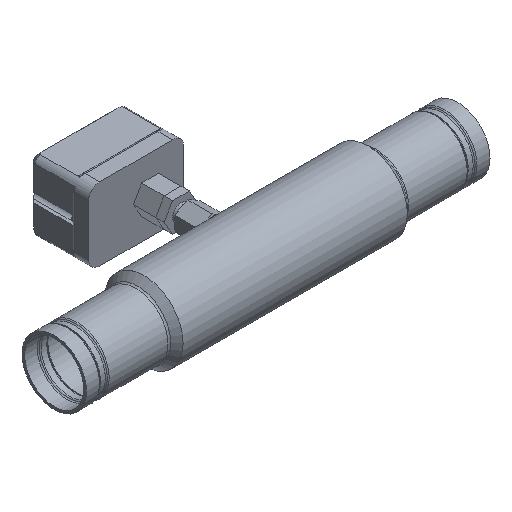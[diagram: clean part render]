
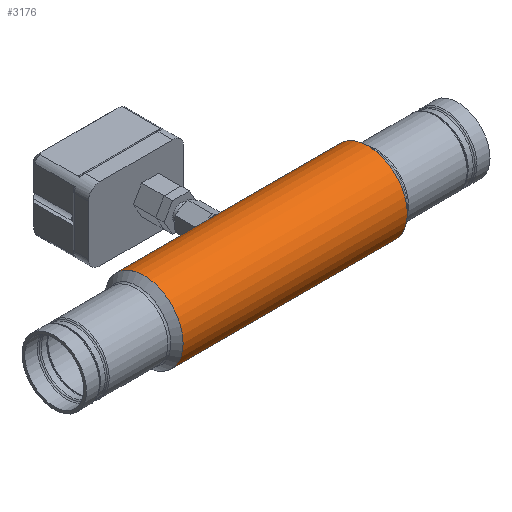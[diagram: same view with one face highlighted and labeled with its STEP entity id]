
A CAD part, isometric view. The second image highlights one B-rep face of the part: STEP entity #3176.
In plain terms, the highlighted cylindrical face has radius 44.45 mm (diameter 88.9 mm), a full revolution.
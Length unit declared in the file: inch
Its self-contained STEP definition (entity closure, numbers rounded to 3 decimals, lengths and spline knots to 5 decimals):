
#92=FACE_BOUND('',#468,.T.);
#179=CYLINDRICAL_SURFACE('',#3483,1.75);
#288=FACE_OUTER_BOUND('',#467,.T.);
#467=EDGE_LOOP('',(#2423,#2424,#2425,#2426,#2427,#2428));
#468=EDGE_LOOP('',(#2429,#2430));
#675=CIRCLE('',#3478,1.75);
#676=CIRCLE('',#3479,1.75);
#677=CIRCLE('',#3481,1.75);
#678=CIRCLE('',#3482,1.75);
#802=B_SPLINE_CURVE_WITH_KNOTS('',3,(#15099,#15100,#15101,#15102,#15103,
#15104,#15105,#15106,#15107,#15108,#15109,#15110,#15111,#15112,#15113,#15114,
#15115,#15116,#15117,#15118,#15119,#15120,#15121,#15122,#15123,#15124),
 .UNSPECIFIED.,.F.,.F.,(4,2,2,2,2,2,2,2,2,2,2,2,4),(0.,0.20913,
0.41826,0.62748,0.8367,1.04593,
1.25515,1.46428,1.67341,1.88254,2.09167,
2.30089,2.51011),.UNSPECIFIED.);
#803=B_SPLINE_CURVE_WITH_KNOTS('',3,(#15125,#15126,#15127,#15128,#15129,
#15130,#15131,#15132,#15133,#15134),.UNSPECIFIED.,.F.,.F.,(4,2,2,2,4),(2.51011,
2.71933,2.92855,3.13768,3.34681),
 .UNSPECIFIED.);
#869=LINE('',#15371,#1041);
#1041=VECTOR('',#4086,1.75);
#1259=VERTEX_POINT('',#15097);
#1260=VERTEX_POINT('',#15098);
#1325=VERTEX_POINT('',#15361);
#1326=VERTEX_POINT('',#15362);
#1327=VERTEX_POINT('',#15366);
#1328=VERTEX_POINT('',#15367);
#1620=EDGE_CURVE('',#1259,#1260,#802,.T.);
#1621=EDGE_CURVE('',#1260,#1259,#803,.T.);
#1718=EDGE_CURVE('',#1325,#1326,#675,.T.);
#1719=EDGE_CURVE('',#1326,#1325,#676,.T.);
#1720=EDGE_CURVE('',#1327,#1328,#677,.T.);
#1721=EDGE_CURVE('',#1328,#1327,#678,.T.);
#1722=EDGE_CURVE('',#1328,#1326,#869,.T.);
#2423=ORIENTED_EDGE('',*,*,#1720,.F.);
#2424=ORIENTED_EDGE('',*,*,#1721,.F.);
#2425=ORIENTED_EDGE('',*,*,#1722,.T.);
#2426=ORIENTED_EDGE('',*,*,#1718,.F.);
#2427=ORIENTED_EDGE('',*,*,#1719,.F.);
#2428=ORIENTED_EDGE('',*,*,#1722,.F.);
#2429=ORIENTED_EDGE('',*,*,#1620,.T.);
#2430=ORIENTED_EDGE('',*,*,#1621,.T.);
#3176=ADVANCED_FACE('',(#288,#92),#179,.T.);
#3478=AXIS2_PLACEMENT_3D('',#15363,#4074,#4075);
#3479=AXIS2_PLACEMENT_3D('',#15364,#4076,#4077);
#3481=AXIS2_PLACEMENT_3D('',#15368,#4080,#4081);
#3482=AXIS2_PLACEMENT_3D('',#15369,#4082,#4083);
#3483=AXIS2_PLACEMENT_3D('',#15370,#4084,#4085);
#4074=DIRECTION('center_axis',(-1.,0.,0.));
#4075=DIRECTION('ref_axis',(0.,1.,0.));
#4076=DIRECTION('center_axis',(-1.,0.,0.));
#4077=DIRECTION('ref_axis',(0.,1.,0.));
#4080=DIRECTION('center_axis',(1.,0.,0.));
#4081=DIRECTION('ref_axis',(0.,1.,0.));
#4082=DIRECTION('center_axis',(1.,0.,0.));
#4083=DIRECTION('ref_axis',(0.,1.,0.));
#4084=DIRECTION('center_axis',(1.,0.,0.));
#4085=DIRECTION('ref_axis',(0.,1.,0.));
#4086=DIRECTION('',(-1.,0.,0.));
#15097=CARTESIAN_POINT('',(9.78391,4.12662,2.53067));
#15098=CARTESIAN_POINT('',(10.0025,4.14028,2.3125));
#15099=CARTESIAN_POINT('Ctrl Pts',(9.78391,4.12662,2.53067));
#15100=CARTESIAN_POINT('Ctrl Pts',(9.75647,4.12662,2.53067));
#15101=CARTESIAN_POINT('Ctrl Pts',(9.72721,4.12734,2.52519));
#15102=CARTESIAN_POINT('Ctrl Pts',(9.67339,4.12992,2.50296));
#15103=CARTESIAN_POINT('Ctrl Pts',(9.64883,4.13174,2.4862));
#15104=CARTESIAN_POINT('Ctrl Pts',(9.61003,4.13517,2.44751));
#15105=CARTESIAN_POINT('Ctrl Pts',(9.59318,4.13699,2.42299));
#15106=CARTESIAN_POINT('Ctrl Pts',(9.57083,4.13957,2.36922));
#15107=CARTESIAN_POINT('Ctrl Pts',(9.56532,4.14028,2.33996));
#15108=CARTESIAN_POINT('Ctrl Pts',(9.56532,4.14028,2.28504));
#15109=CARTESIAN_POINT('Ctrl Pts',(9.57083,4.13957,2.25578));
#15110=CARTESIAN_POINT('Ctrl Pts',(9.59318,4.13699,2.20201));
#15111=CARTESIAN_POINT('Ctrl Pts',(9.61003,4.13517,2.17749));
#15112=CARTESIAN_POINT('Ctrl Pts',(9.64883,4.13174,2.1388));
#15113=CARTESIAN_POINT('Ctrl Pts',(9.67339,4.12992,2.12204));
#15114=CARTESIAN_POINT('Ctrl Pts',(9.72721,4.12734,2.09981));
#15115=CARTESIAN_POINT('Ctrl Pts',(9.75647,4.12662,2.09433));
#15116=CARTESIAN_POINT('Ctrl Pts',(9.81136,4.12662,2.09433));
#15117=CARTESIAN_POINT('Ctrl Pts',(9.84062,4.12734,2.09981));
#15118=CARTESIAN_POINT('Ctrl Pts',(9.89443,4.12992,2.12204));
#15119=CARTESIAN_POINT('Ctrl Pts',(9.91899,4.13174,2.1388));
#15120=CARTESIAN_POINT('Ctrl Pts',(9.9578,4.13517,2.17749));
#15121=CARTESIAN_POINT('Ctrl Pts',(9.97464,4.13699,2.20201));
#15122=CARTESIAN_POINT('Ctrl Pts',(9.99699,4.13957,2.25578));
#15123=CARTESIAN_POINT('Ctrl Pts',(10.0025,4.14028,2.28504));
#15124=CARTESIAN_POINT('Ctrl Pts',(10.0025,4.14028,2.3125));
#15125=CARTESIAN_POINT('Ctrl Pts',(10.0025,4.14028,2.3125));
#15126=CARTESIAN_POINT('Ctrl Pts',(10.0025,4.14028,2.33996));
#15127=CARTESIAN_POINT('Ctrl Pts',(9.99699,4.13957,2.36922));
#15128=CARTESIAN_POINT('Ctrl Pts',(9.97464,4.13699,2.42299));
#15129=CARTESIAN_POINT('Ctrl Pts',(9.9578,4.13517,2.44751));
#15130=CARTESIAN_POINT('Ctrl Pts',(9.91899,4.13174,2.4862));
#15131=CARTESIAN_POINT('Ctrl Pts',(9.89443,4.12992,2.50296));
#15132=CARTESIAN_POINT('Ctrl Pts',(9.84062,4.12734,2.52519));
#15133=CARTESIAN_POINT('Ctrl Pts',(9.81136,4.12662,2.53067));
#15134=CARTESIAN_POINT('Ctrl Pts',(9.78391,4.12662,2.53067));
#15361=CARTESIAN_POINT('',(4.78391,4.14028,2.3125));
#15362=CARTESIAN_POINT('',(4.78391,0.64028,2.3125));
#15363=CARTESIAN_POINT('Origin',(4.78391,2.39028,2.3125));
#15364=CARTESIAN_POINT('Origin',(4.78391,2.39028,2.3125));
#15366=CARTESIAN_POINT('',(14.78391,4.14028,2.3125));
#15367=CARTESIAN_POINT('',(14.78391,0.64028,2.3125));
#15368=CARTESIAN_POINT('Origin',(14.78391,2.39028,2.3125));
#15369=CARTESIAN_POINT('Origin',(14.78391,2.39028,2.3125));
#15370=CARTESIAN_POINT('Origin',(9.78391,2.39028,2.3125));
#15371=CARTESIAN_POINT('',(9.78391,0.64028,2.3125));
